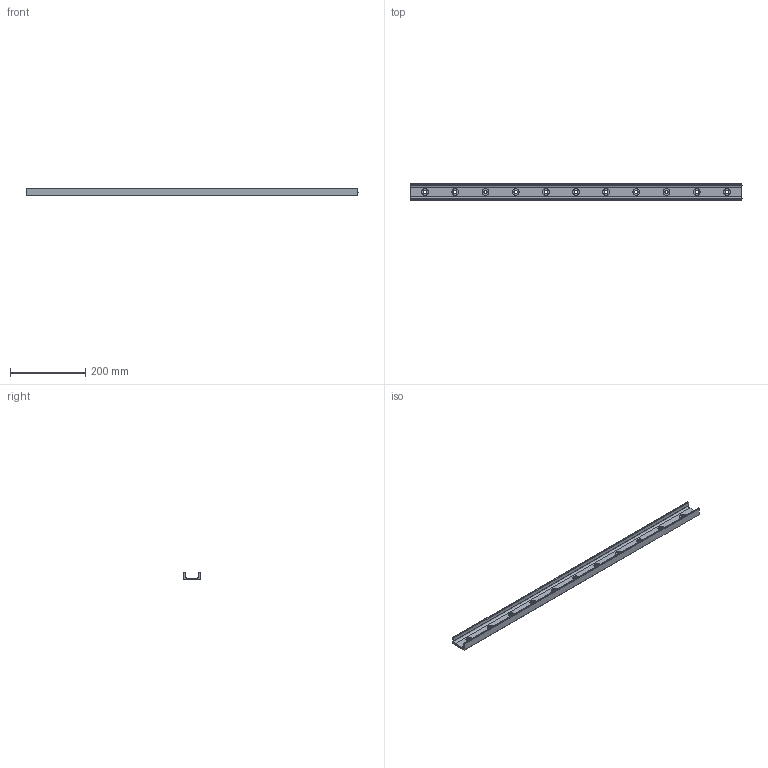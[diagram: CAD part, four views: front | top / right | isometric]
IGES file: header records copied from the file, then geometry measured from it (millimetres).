
Start section: SolidWorks IGES file using analytic representation for surfaces
Global section: file name: C:\Users\IanO\Desktop\43\L1943.ULC43_v2_20180121_IGES\L1943.ULC43-0880.igs; native system: SolidWorks 2017; preprocessor: SolidWorks 2017; author: IanO; date: 190121.084614; units: millimetre
Bounding box: 880 x 43 x 21 mm (x, y, z)
Surface area: 138458.2 mm2 (no closed solid volume)
Topology: 0 solids, 0 shells, 81 faces, 1878 edges, 1878 vertices
Faces by surface type: revolution 57, bspline 24
